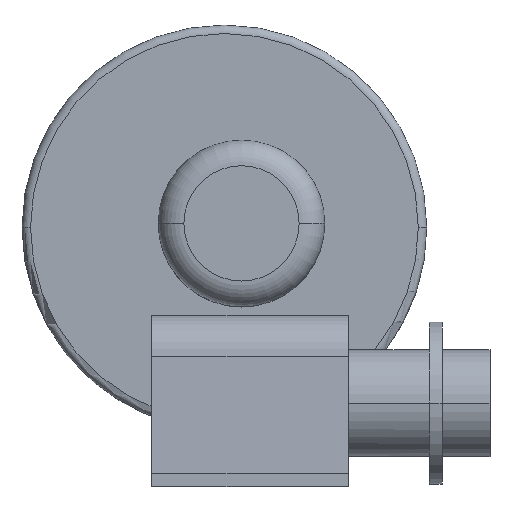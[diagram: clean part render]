
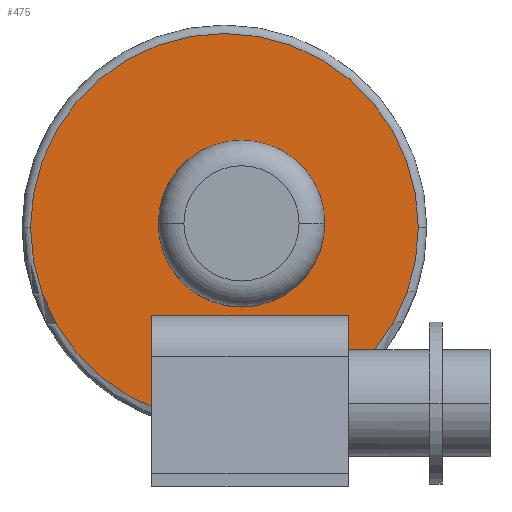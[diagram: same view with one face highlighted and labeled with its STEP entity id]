
A CAD part, top view. The second image highlights one B-rep face of the part: STEP entity #475.
In plain terms, the highlighted planar face has unit normal (0, 0, 1).
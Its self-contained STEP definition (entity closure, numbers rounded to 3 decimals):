
#22 = DIRECTION ( 'NONE',  ( -1., 0., 0. ) ) ;
#24 = EDGE_CURVE ( 'NONE', #550, #2265, #245, .T. ) ;
#44 = EDGE_CURVE ( 'NONE', #2265, #1593, #1707, .T. ) ;
#63 = DIRECTION ( 'NONE',  ( 0., 0., 1. ) ) ;
#93 = EDGE_CURVE ( 'NONE', #550, #1151, #1584, .T. ) ;
#112 = CARTESIAN_POINT ( 'NONE',  ( 220., -147.5, 0. ) ) ;
#148 = DIRECTION ( 'NONE',  ( -1., 0., 0. ) ) ;
#164 = DIRECTION ( 'NONE',  ( -1., 0., 0. ) ) ;
#194 = VECTOR ( 'NONE', #223, 1000. ) ;
#223 = DIRECTION ( 'NONE',  ( -1., 0., 0. ) ) ;
#231 = CIRCLE ( 'NONE', #828, 97.5 ) ;
#245 = LINE ( 'NONE', #112, #194 ) ;
#348 = CARTESIAN_POINT ( 'NONE',  ( 220., -150., 0. ) ) ;
#362 = CIRCLE ( 'NONE', #1838, 227.049 ) ;
#366 = FACE_OUTER_BOUND ( 'NONE', #1681, .T. ) ;
#433 = ORIENTED_EDGE ( 'NONE', *, *, #1608, .T. ) ;
#437 = DIRECTION ( 'NONE',  ( 0., 0., -1. ) ) ;
#475 = ADVANCED_FACE ( 'NONE', ( #1250, #366 ), #914, .F. ) ;
#498 = VERTEX_POINT ( 'NONE', #2052 ) ;
#550 = VERTEX_POINT ( 'NONE', #925 ) ;
#560 = CIRCLE ( 'NONE', #1868, 227.049 ) ;
#568 = VERTEX_POINT ( 'NONE', #2069 ) ;
#623 = ORIENTED_EDGE ( 'NONE', *, *, #1092, .T. ) ;
#644 = CIRCLE ( 'NONE', #1778, 97.5 ) ;
#696 = DIRECTION ( 'NONE',  ( 0., 0., -1. ) ) ;
#818 = DIRECTION ( 'NONE',  ( 0., 0., 1. ) ) ;
#828 = AXIS2_PLACEMENT_3D ( 'NONE', #2403, #1272, #148 ) ;
#851 = AXIS2_PLACEMENT_3D ( 'NONE', #2248, #437, #164 ) ;
#899 = ORIENTED_EDGE ( 'NONE', *, *, #1225, .T. ) ;
#914 = PLANE ( 'NONE',  #851 ) ;
#925 = CARTESIAN_POINT ( 'NONE',  ( 156.105, -147.5, 0. ) ) ;
#1092 = EDGE_CURVE ( 'NONE', #2258, #1884, #362, .T. ) ;
#1134 = DIRECTION ( 'NONE',  ( 0., 0., 1. ) ) ;
#1151 = VERTEX_POINT ( 'NONE', #1587 ) ;
#1176 = CARTESIAN_POINT ( 'NONE',  ( -20.012, -4.202, 0. ) ) ;
#1225 = EDGE_CURVE ( 'NONE', #1884, #1593, #1700, .T. ) ;
#1250 = FACE_BOUND ( 'NONE', #1783, .T. ) ;
#1260 = CARTESIAN_POINT ( 'NONE',  ( 0., -150., 0. ) ) ;
#1272 = DIRECTION ( 'NONE',  ( 0., 0., -1. ) ) ;
#1375 = DIRECTION ( 'NONE',  ( -1., 0., 0. ) ) ;
#1379 = CARTESIAN_POINT ( 'NONE',  ( 154.041, -150., 0. ) ) ;
#1403 = EDGE_CURVE ( 'NONE', #568, #498, #644, .T. ) ;
#1576 = VECTOR ( 'NONE', #1668, 1000. ) ;
#1578 = ORIENTED_EDGE ( 'NONE', *, *, #1403, .T. ) ;
#1583 = ORIENTED_EDGE ( 'NONE', *, *, #24, .F. ) ;
#1584 = CIRCLE ( 'NONE', #1975, 227.049 ) ;
#1587 = CARTESIAN_POINT ( 'NONE',  ( 207.037, -4.202, 0. ) ) ;
#1593 = VERTEX_POINT ( 'NONE', #1260 ) ;
#1608 = EDGE_CURVE ( 'NONE', #498, #568, #231, .T. ) ;
#1645 = VECTOR ( 'NONE', #1932, 1000. ) ;
#1668 = DIRECTION ( 'NONE',  ( -1., 0., 0. ) ) ;
#1681 = EDGE_LOOP ( 'NONE', ( #1583, #2215, #2098, #623, #899, #2083 ) ) ;
#1693 = EDGE_CURVE ( 'NONE', #1151, #2258, #560, .T. ) ;
#1700 = LINE ( 'NONE', #348, #1576 ) ;
#1707 = LINE ( 'NONE', #1741, #1645 ) ;
#1741 = CARTESIAN_POINT ( 'NONE',  ( 0., -4.202, 0. ) ) ;
#1778 = AXIS2_PLACEMENT_3D ( 'NONE', #1843, #696, #2028 ) ;
#1783 = EDGE_LOOP ( 'NONE', ( #433, #1578 ) ) ;
#1784 = CARTESIAN_POINT ( 'NONE',  ( -247.061, -4.202, 0. ) ) ;
#1838 = AXIS2_PLACEMENT_3D ( 'NONE', #1176, #63, #1375 ) ;
#1843 = CARTESIAN_POINT ( 'NONE',  ( 0., 0., 0. ) ) ;
#1868 = AXIS2_PLACEMENT_3D ( 'NONE', #1971, #818, #2155 ) ;
#1884 = VERTEX_POINT ( 'NONE', #1379 ) ;
#1932 = DIRECTION ( 'NONE',  ( 0., -1., 0. ) ) ;
#1971 = CARTESIAN_POINT ( 'NONE',  ( -20.012, -4.202, 0. ) ) ;
#1975 = AXIS2_PLACEMENT_3D ( 'NONE', #2272, #1134, #22 ) ;
#2028 = DIRECTION ( 'NONE',  ( -1., 0., 0. ) ) ;
#2052 = CARTESIAN_POINT ( 'NONE',  ( -97.5, 0., 0. ) ) ;
#2069 = CARTESIAN_POINT ( 'NONE',  ( 97.5, 0., 0. ) ) ;
#2083 = ORIENTED_EDGE ( 'NONE', *, *, #44, .F. ) ;
#2098 = ORIENTED_EDGE ( 'NONE', *, *, #1693, .T. ) ;
#2155 = DIRECTION ( 'NONE',  ( -1., 0., 0. ) ) ;
#2215 = ORIENTED_EDGE ( 'NONE', *, *, #93, .T. ) ;
#2248 = CARTESIAN_POINT ( 'NONE',  ( -20.012, -4.202, 0. ) ) ;
#2258 = VERTEX_POINT ( 'NONE', #1784 ) ;
#2265 = VERTEX_POINT ( 'NONE', #2354 ) ;
#2272 = CARTESIAN_POINT ( 'NONE',  ( -20.012, -4.202, 0. ) ) ;
#2354 = CARTESIAN_POINT ( 'NONE',  ( 0., -147.5, 0. ) ) ;
#2403 = CARTESIAN_POINT ( 'NONE',  ( 0., 0., 0. ) ) ;
